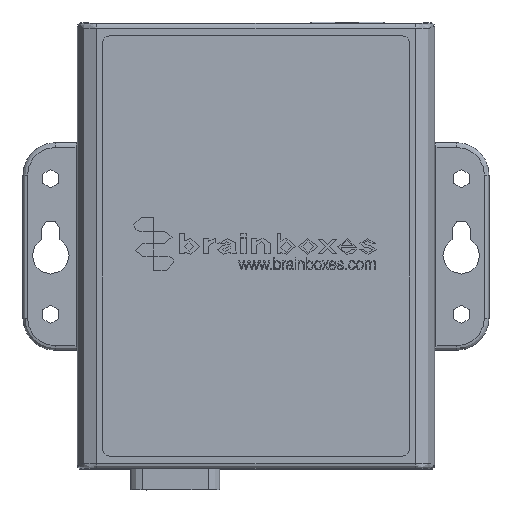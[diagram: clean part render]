
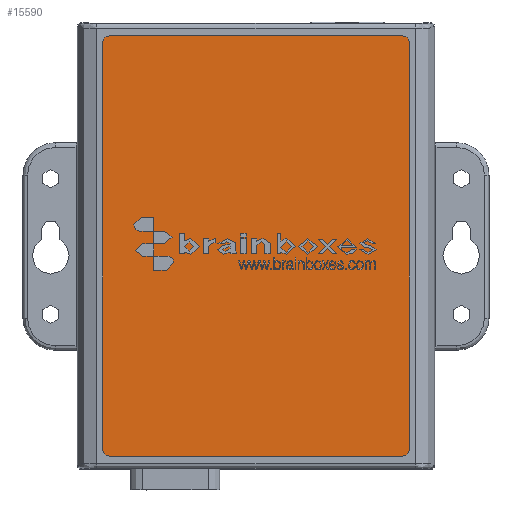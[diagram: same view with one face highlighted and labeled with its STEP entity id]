
A CAD part, top view. The second image highlights one B-rep face of the part: STEP entity #15590.
In plain terms, the highlighted planar face has unit normal (0, 0, 1) as drawn and (0, 1, 0) by its records, which use the part's own axes.
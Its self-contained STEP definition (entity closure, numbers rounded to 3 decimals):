
#15590=ADVANCED_FACE('',(#31430),#31431,.T.);
#31430=FACE_OUTER_BOUND('',#48301,.T.);
#31431=PLANE('',#48302);
#48301=EDGE_LOOP('',(#94968,#94969,#94970,#94971,#94972,#94973,#94974,#94975));
#48302=AXIS2_PLACEMENT_3D('',#94976,#94977,#94978);
#94968=ORIENTED_EDGE('',*,*,#119744,.T.);
#94969=ORIENTED_EDGE('',*,*,#119765,.T.);
#94970=ORIENTED_EDGE('',*,*,#119762,.T.);
#94971=ORIENTED_EDGE('',*,*,#119759,.T.);
#94972=ORIENTED_EDGE('',*,*,#119756,.T.);
#94973=ORIENTED_EDGE('',*,*,#119753,.T.);
#94974=ORIENTED_EDGE('',*,*,#119750,.T.);
#94975=ORIENTED_EDGE('',*,*,#119747,.T.);
#94976=CARTESIAN_POINT('',(-31.75,-0.5,44.05));
#94977=DIRECTION('',(0.0,1.0,0.0));
#94978=DIRECTION('',(1.0,0.0,-0.0));
#119744=EDGE_CURVE('',#147520,#147518,#147521,.T.);
#119747=EDGE_CURVE('',#147524,#147520,#147525,.T.);
#119750=EDGE_CURVE('',#147528,#147524,#147529,.T.);
#119753=EDGE_CURVE('',#147532,#147528,#147533,.T.);
#119756=EDGE_CURVE('',#147536,#147532,#147537,.T.);
#119759=EDGE_CURVE('',#147540,#147536,#147541,.T.);
#119762=EDGE_CURVE('',#147544,#147540,#147545,.T.);
#119765=EDGE_CURVE('',#147518,#147544,#147548,.T.);
#147518=VERTEX_POINT('',#187700);
#147520=VERTEX_POINT('',#187703);
#147521=CIRCLE('',#187704,1.5);
#147524=VERTEX_POINT('',#187708);
#147525=LINE('',#187709,#187710);
#147528=VERTEX_POINT('',#187714);
#147529=CIRCLE('',#187715,1.5);
#147532=VERTEX_POINT('',#187719);
#147533=LINE('',#187720,#187721);
#147536=VERTEX_POINT('',#187725);
#147537=CIRCLE('',#187726,1.5);
#147540=VERTEX_POINT('',#187730);
#147541=LINE('',#187731,#187732);
#147544=VERTEX_POINT('',#187736);
#147545=CIRCLE('',#187737,1.5);
#147548=LINE('',#187741,#187742);
#187700=CARTESIAN_POINT('',(-31.75,-0.5,45.55));
#187703=CARTESIAN_POINT('',(-33.25,-0.5,44.05));
#187704=AXIS2_PLACEMENT_3D('',#212108,#212109,#212110);
#187708=CARTESIAN_POINT('',(-33.25,-0.5,-44.05));
#187709=CARTESIAN_POINT('',(-33.25,-0.5,-44.05));
#187710=VECTOR('',#212112,1.0);
#187714=CARTESIAN_POINT('',(-31.75,-0.5,-45.55));
#187715=AXIS2_PLACEMENT_3D('',#212114,#212115,#212116);
#187719=CARTESIAN_POINT('',(31.75,-0.5,-45.55));
#187720=CARTESIAN_POINT('',(-31.75,-0.5,-45.55));
#187721=VECTOR('',#212118,1.0);
#187725=CARTESIAN_POINT('',(33.25,-0.5,-44.05));
#187726=AXIS2_PLACEMENT_3D('',#212120,#212121,#212122);
#187730=CARTESIAN_POINT('',(33.25,-0.5,44.05));
#187731=CARTESIAN_POINT('',(33.25,-0.5,-44.05));
#187732=VECTOR('',#212124,1.0);
#187736=CARTESIAN_POINT('',(31.75,-0.5,45.55));
#187737=AXIS2_PLACEMENT_3D('',#212126,#212127,#212128);
#187741=CARTESIAN_POINT('',(-31.75,-0.5,45.55));
#187742=VECTOR('',#212130,1.0);
#212108=CARTESIAN_POINT('',(-31.75,-0.5,44.05));
#212109=DIRECTION('',(0.0,1.0,0.0));
#212110=DIRECTION('',(0.0,-0.0,1.0));
#212112=DIRECTION('',(0.,0.0,1.0));
#212114=CARTESIAN_POINT('',(-31.75,-0.5,-44.05));
#212115=DIRECTION('',(0.0,1.0,0.0));
#212116=DIRECTION('',(0.0,0.0,-1.0));
#212118=DIRECTION('',(-1.0,0.0,0.0));
#212120=CARTESIAN_POINT('',(31.75,-0.5,-44.05));
#212121=DIRECTION('',(0.0,1.0,0.0));
#212122=DIRECTION('',(0.0,-0.0,1.0));
#212124=DIRECTION('',(0.,0.0,-1.0));
#212126=CARTESIAN_POINT('',(31.75,-0.5,44.05));
#212127=DIRECTION('',(0.0,1.0,0.0));
#212128=DIRECTION('',(0.0,-0.0,1.0));
#212130=DIRECTION('',(1.0,0.0,0.0));
